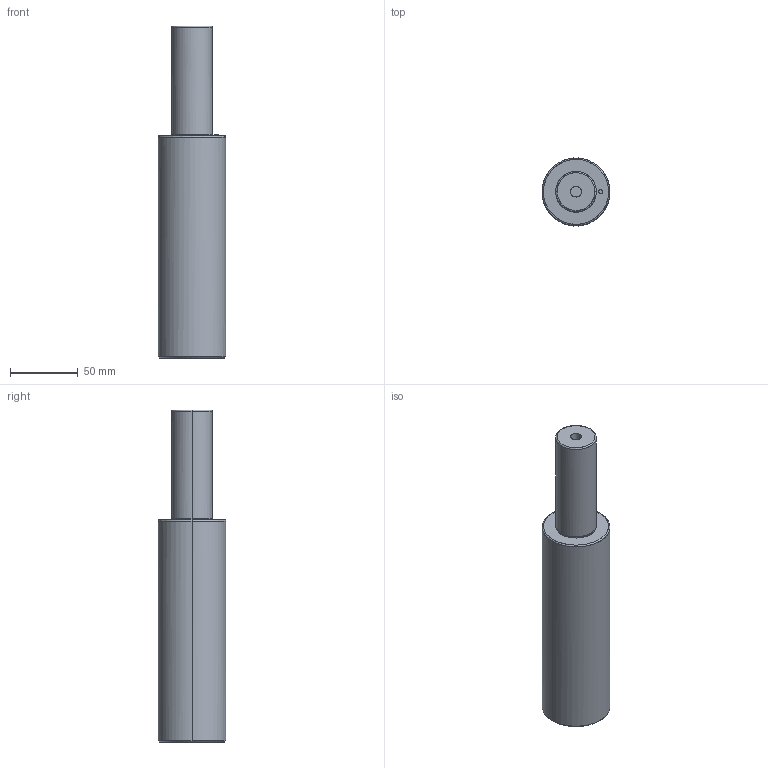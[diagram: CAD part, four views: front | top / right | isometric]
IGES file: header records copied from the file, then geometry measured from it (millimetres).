
Global section: file name: E:\UnigraphicsGraphicData\MISUMI_PRESS-PARTS\IGES\3d_gssr50-80_03957_r00.igs; native system: NX V5.0; preprocessor: UGS NX IGES V5.0; author: MISUMI; date: 20110105.160820; units: millimetre
Bounding box: 50 x 49.9 x 245 mm (x, y, z)
Surface area: 40293.2 mm2 (no closed solid volume)
Topology: 0 solids, 0 shells, 42 faces, 304 edges, 298 vertices
Faces by surface type: bspline 42
